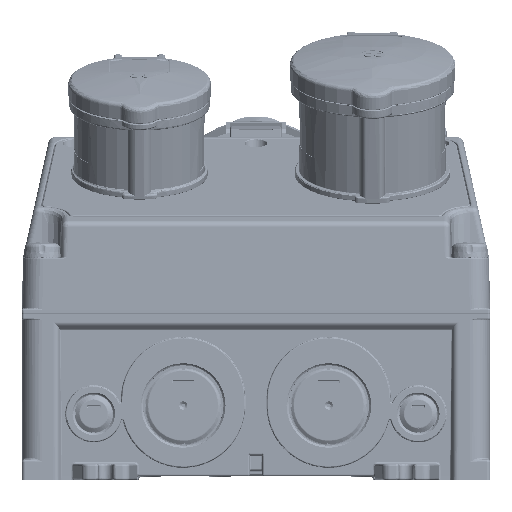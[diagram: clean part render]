
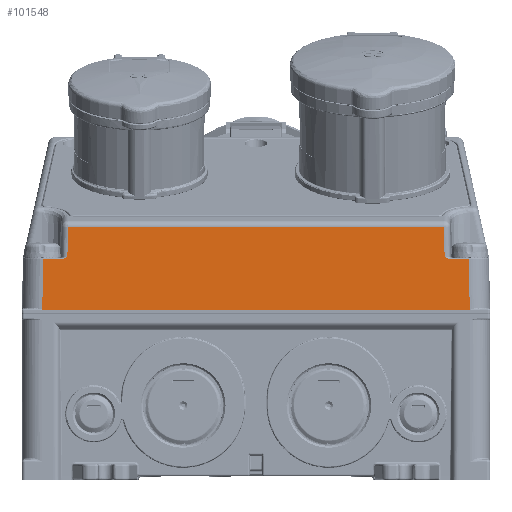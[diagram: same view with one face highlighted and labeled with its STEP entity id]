
A CAD part, front view. The second image highlights one B-rep face of the part: STEP entity #101548.
In plain terms, the highlighted planar face has unit normal (0, -1, 0.018).
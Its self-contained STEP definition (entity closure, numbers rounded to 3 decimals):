
#8587=DIRECTION('',(1.,0.,0.));
#8588=VECTOR('',#8587,223.);
#8589=CARTESIAN_POINT('',(1.,0.,82.));
#8590=LINE('44195',#8589,#8588);
#8758=DIRECTION('',(-0.012,0.017,1.));
#8759=VECTOR('',#8758,0.059);
#8760=CARTESIAN_POINT('',(224.,0.,82.));
#8761=LINE('44237',#8760,#8759);
#8777=CARTESIAN_POINT('',(223.999,0.001,82.059));
#8832=CARTESIAN_POINT('',(215.25,0.001,82.059));
#8843=DIRECTION('',(-1.,0.,0.));
#8844=VECTOR('',#8843,8.749);
#8845=CARTESIAN_POINT('',(223.999,0.001,82.059));
#8846=LINE('44254',#8845,#8844);
#8847=DIRECTION('',(0.017,0.017,1.));
#8848=VECTOR('',#8847,24.457);
#8849=CARTESIAN_POINT('',(9.75,0.001,82.059));
#8850=LINE('44256',#8849,#8848);
#8851=DIRECTION('',(0.009,0.017,1.));
#8852=VECTOR('',#8851,14.45);
#8853=CARTESIAN_POINT('',(21.854,0.445,107.491));
#8854=LINE('44259',#8853,#8852);
#8855=DIRECTION('',(0.009,-0.017,-1.));
#8856=VECTOR('',#8855,14.45);
#8857=CARTESIAN_POINT('',(203.02,0.697,121.939));
#8858=LINE('44261',#8857,#8856);
#8859=DIRECTION('',(0.017,-0.017,-1.));
#8860=VECTOR('',#8859,24.457);
#8861=CARTESIAN_POINT('',(214.824,0.428,106.509));
#8862=LINE('44264',#8861,#8860);
#8870=DIRECTION('',(-1.,0.,0.));
#8871=VECTOR('',#8870,8.749);
#8872=CARTESIAN_POINT('',(9.75,0.001,82.059));
#8873=LINE('44255',#8872,#8871);
#8983=DIRECTION('',(-0.012,-0.017,-1.));
#8984=VECTOR('',#8983,0.059);
#8985=CARTESIAN_POINT('',(1.001,0.001,82.059));
#8986=LINE('44265',#8985,#8984);
#9867=CARTESIAN_POINT('',(205.578,0.428,106.509));
#9868=CARTESIAN_POINT('',(205.518,0.428,106.509));
#9869=CARTESIAN_POINT('',(205.394,0.428,106.514));
#9870=CARTESIAN_POINT('',(205.196,0.428,106.539));
#9871=CARTESIAN_POINT('',(204.979,0.429,106.584));
#9872=CARTESIAN_POINT('',(204.739,0.43,106.653));
#9873=CARTESIAN_POINT('',(204.474,0.432,106.752));
#9874=CARTESIAN_POINT('',(204.184,0.434,106.883));
#9875=CARTESIAN_POINT('',(203.869,0.437,107.049));
#9876=CARTESIAN_POINT('',(203.526,0.441,107.252));
#9877=CARTESIAN_POINT('',(203.277,0.443,107.409));
#9878=CARTESIAN_POINT('',(203.146,0.445,107.491));
#9884=DIRECTION('',(-1.,0.,0.));
#9885=VECTOR('',#9884,9.246);
#9886=CARTESIAN_POINT('',(214.824,0.428,106.509));
#9887=LINE('44263',#9886,#9885);
#9920=DIRECTION('',(-1.,0.,0.));
#9921=VECTOR('',#9920,181.04);
#9922=CARTESIAN_POINT('',(203.02,0.697,121.939));
#9923=LINE('44260',#9922,#9921);
#10311=CARTESIAN_POINT('',(21.854,0.445,
107.491));
#10312=CARTESIAN_POINT('',(21.723,0.443,
107.409));
#10313=CARTESIAN_POINT('',(21.474,0.441,
107.252));
#10314=CARTESIAN_POINT('',(21.131,0.437,
107.05));
#10315=CARTESIAN_POINT('',(20.816,0.434,
106.883));
#10316=CARTESIAN_POINT('',(20.526,0.432,
106.752));
#10317=CARTESIAN_POINT('',(20.261,0.43,
106.653));
#10318=CARTESIAN_POINT('',(20.022,0.429,
106.584));
#10319=CARTESIAN_POINT('',(19.804,0.428,
106.539));
#10320=CARTESIAN_POINT('',(19.605,0.428,
106.514));
#10321=CARTESIAN_POINT('',(19.482,0.428,
106.509));
#10322=CARTESIAN_POINT('',(19.422,0.428,
106.509));
#10333=DIRECTION('',(-1.,0.,0.));
#10334=VECTOR('',#10333,9.246);
#10335=CARTESIAN_POINT('',(19.422,0.428,
106.509));
#10336=LINE('44257',#10335,#10334);
#73116=CARTESIAN_POINT('',(1.,0.,
82.));
#73117=VERTEX_POINT('',#73116);
#73118=CARTESIAN_POINT('',(224.,0.,
82.));
#73119=VERTEX_POINT('',#73118);
#73165=VERTEX_POINT('',#8777);
#73183=VERTEX_POINT('',#8832);
#73184=CARTESIAN_POINT('',(9.75,0.001,
82.059));
#73185=CARTESIAN_POINT('',(1.001,0.001,
82.059));
#73186=VERTEX_POINT('',#73184);
#73187=VERTEX_POINT('',#73185);
#73188=CARTESIAN_POINT('',(10.176,0.428,
106.509));
#73189=VERTEX_POINT('',#73188);
#73190=CARTESIAN_POINT('',(19.422,0.428,
106.509));
#73191=VERTEX_POINT('',#73190);
#73192=VERTEX_POINT('',#10311);
#73193=CARTESIAN_POINT('',(21.98,0.697,
121.939));
#73194=VERTEX_POINT('',#73193);
#73195=CARTESIAN_POINT('',(203.02,0.697,
121.939));
#73196=VERTEX_POINT('',#73195);
#73197=CARTESIAN_POINT('',(203.146,0.445,
107.491));
#73198=VERTEX_POINT('',#73197);
#73199=VERTEX_POINT('',#9867);
#73200=CARTESIAN_POINT('',(214.824,0.428,
106.509));
#73201=VERTEX_POINT('',#73200);
#101516=CARTESIAN_POINT('',(0.,0.733,124.));
#101517=DIRECTION('',(0.,-1.,0.017));
#101518=DIRECTION('',(0.,-0.017,-1.));
#101519=AXIS2_PLACEMENT_3D('',#101516,#101517,#101518);
#101520=PLANE('55587',#101519);
#101522=ORIENTED_EDGE('44255',*,*,#101521,.F.);
#101524=ORIENTED_EDGE('44256',*,*,#101523,.T.);
#101526=ORIENTED_EDGE('44257',*,*,#101525,.F.);
#101528=ORIENTED_EDGE('44258',*,*,#101527,.F.);
#101530=ORIENTED_EDGE('44259',*,*,#101529,.T.);
#101532=ORIENTED_EDGE('44260',*,*,#101531,.F.);
#101534=ORIENTED_EDGE('44261',*,*,#101533,.T.);
#101536=ORIENTED_EDGE('44262',*,*,#101535,.F.);
#101538=ORIENTED_EDGE('44263',*,*,#101537,.F.);
#101540=ORIENTED_EDGE('44264',*,*,#101539,.T.);
#101541=ORIENTED_EDGE('44254',*,*,#101504,.F.);
#101542=ORIENTED_EDGE('44237',*,*,#101328,.F.);
#101543=ORIENTED_EDGE('44195',*,*,#100938,.F.);
#101545=ORIENTED_EDGE('44265',*,*,#101544,.F.);
#101546=EDGE_LOOP('55587',(#101522,#101524,#101526,#101528,#101530,#101532,
#101534,#101536,#101538,#101540,#101541,#101542,#101543,#101545));
#101547=FACE_OUTER_BOUND('55587',#101546,.F.);
#9879=B_SPLINE_CURVE_WITH_KNOTS('44262',3,(#9867,#9868,#9869,#9870,#9871,#9872,
#9873,#9874,#9875,#9876,#9877,#9878),.UNSPECIFIED.,.F.,.F.,(4,1,1,1,1,1,1,1,1,
4),(0.,0.111,0.222,0.333,
0.444,0.556,0.667,0.778,
0.889,1.),.UNSPECIFIED.);
#10323=B_SPLINE_CURVE_WITH_KNOTS('44258',3,(#10311,#10312,#10313,#10314,#10315,
#10316,#10317,#10318,#10319,#10320,#10321,#10322),.UNSPECIFIED.,.F.,.F.,(4,1,1,
1,1,1,1,1,1,4),(0.,0.111,0.222,0.333,
0.444,0.556,0.667,0.778,
0.889,1.),.UNSPECIFIED.);
#100938=EDGE_CURVE('44195',#73117,#73119,#8590,.T.);
#101328=EDGE_CURVE('44237',#73119,#73165,#8761,.T.);
#101504=EDGE_CURVE('44254',#73165,#73183,#8846,.T.);
#101521=EDGE_CURVE('44255',#73186,#73187,#8873,.T.);
#101523=EDGE_CURVE('44256',#73186,#73189,#8850,.T.);
#101525=EDGE_CURVE('44257',#73191,#73189,#10336,.T.);
#101527=EDGE_CURVE('44258',#73192,#73191,#10323,.T.);
#101529=EDGE_CURVE('44259',#73192,#73194,#8854,.T.);
#101531=EDGE_CURVE('44260',#73196,#73194,#9923,.T.);
#101533=EDGE_CURVE('44261',#73196,#73198,#8858,.T.);
#101535=EDGE_CURVE('44262',#73199,#73198,#9879,.T.);
#101537=EDGE_CURVE('44263',#73201,#73199,#9887,.T.);
#101539=EDGE_CURVE('44264',#73201,#73183,#8862,.T.);
#101544=EDGE_CURVE('44265',#73187,#73117,#8986,.T.);
#101548=ADVANCED_FACE('55587',(#101547),#101520,.T.);
